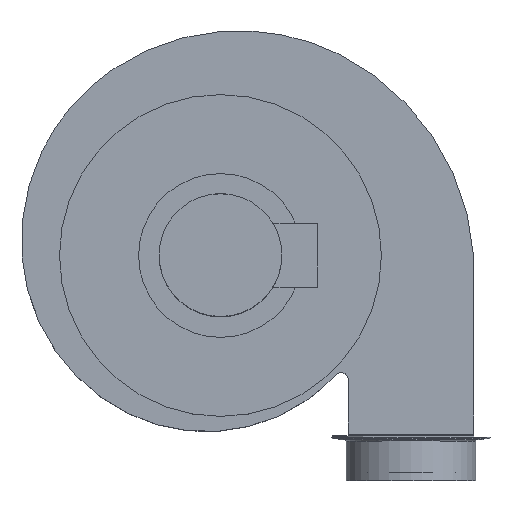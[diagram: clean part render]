
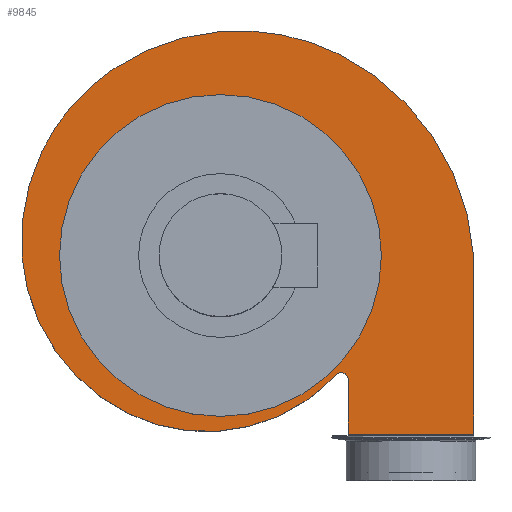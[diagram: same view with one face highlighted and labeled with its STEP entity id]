
A CAD part, top view. The second image highlights one B-rep face of the part: STEP entity #9845.
In plain terms, the highlighted planar face has unit normal (0, 0, 1).
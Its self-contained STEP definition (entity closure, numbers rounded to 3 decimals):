
#1015=LINE('',#12393,#1695);
#1043=LINE('',#12496,#1723);
#1055=LINE('',#12519,#1735);
#1695=VECTOR('',#10886,10.);
#1723=VECTOR('',#10986,10.);
#1735=VECTOR('',#11008,10.);
#2516=PLANE('',#10468);
#2644=FACE_BOUND('',#3314,.T.);
#2736=FACE_OUTER_BOUND('',#3313,.T.);
#3313=EDGE_LOOP('',(#6803,#6804,#6805,#6806,#6807,#6808,#6809,#6810,#6811,
#6812,#6813,#6814,#6815));
#3314=EDGE_LOOP('',(#6816));
#3940=CIRCLE('',#10431,298.753);
#3942=CIRCLE('',#10434,274.958);
#3944=CIRCLE('',#10437,275.108);
#3946=CIRCLE('',#10440,253.289);
#3948=CIRCLE('',#10443,253.209);
#3950=CIRCLE('',#10446,233.749);
#3952=CIRCLE('',#10449,233.75);
#3954=CIRCLE('',#10452,215.217);
#3956=CIRCLE('',#10455,213.668);
#3958=CIRCLE('',#10458,8.85);
#3962=CIRCLE('',#10469,196.5);
#4156=VERTEX_POINT('',#12390);
#4157=VERTEX_POINT('',#12392);
#4169=VERTEX_POINT('',#12418);
#4170=VERTEX_POINT('',#12419);
#4173=VERTEX_POINT('',#12427);
#4175=VERTEX_POINT('',#12433);
#4177=VERTEX_POINT('',#12439);
#4179=VERTEX_POINT('',#12445);
#4181=VERTEX_POINT('',#12451);
#4183=VERTEX_POINT('',#12457);
#4185=VERTEX_POINT('',#12463);
#4187=VERTEX_POINT('',#12469);
#4196=VERTEX_POINT('',#12494);
#4203=VERTEX_POINT('',#12520);
#5179=EDGE_CURVE('',#4156,#4157,#1015,.T.);
#5192=EDGE_CURVE('',#4169,#4170,#3940,.T.);
#5196=EDGE_CURVE('',#4173,#4169,#3942,.T.);
#5199=EDGE_CURVE('',#4175,#4173,#3944,.T.);
#5202=EDGE_CURVE('',#4177,#4175,#3946,.T.);
#5205=EDGE_CURVE('',#4179,#4177,#3948,.T.);
#5208=EDGE_CURVE('',#4181,#4179,#3950,.T.);
#5211=EDGE_CURVE('',#4183,#4181,#3952,.T.);
#5214=EDGE_CURVE('',#4185,#4183,#3954,.T.);
#5217=EDGE_CURVE('',#4187,#4185,#3956,.T.);
#5220=EDGE_CURVE('',#4157,#4187,#3958,.T.);
#5231=EDGE_CURVE('',#4156,#4196,#1043,.T.);
#5243=EDGE_CURVE('',#4170,#4196,#1055,.T.);
#5244=EDGE_CURVE('',#4203,#4203,#3962,.T.);
#6803=ORIENTED_EDGE('',*,*,#5231,.T.);
#6804=ORIENTED_EDGE('',*,*,#5243,.F.);
#6805=ORIENTED_EDGE('',*,*,#5192,.F.);
#6806=ORIENTED_EDGE('',*,*,#5196,.F.);
#6807=ORIENTED_EDGE('',*,*,#5199,.F.);
#6808=ORIENTED_EDGE('',*,*,#5202,.F.);
#6809=ORIENTED_EDGE('',*,*,#5205,.F.);
#6810=ORIENTED_EDGE('',*,*,#5208,.F.);
#6811=ORIENTED_EDGE('',*,*,#5211,.F.);
#6812=ORIENTED_EDGE('',*,*,#5214,.F.);
#6813=ORIENTED_EDGE('',*,*,#5217,.F.);
#6814=ORIENTED_EDGE('',*,*,#5220,.F.);
#6815=ORIENTED_EDGE('',*,*,#5179,.F.);
#6816=ORIENTED_EDGE('',*,*,#5244,.T.);
#9845=ADVANCED_FACE('',(#2736,#2644),#2516,.T.);
#10431=AXIS2_PLACEMENT_3D('',#12420,#10903,#10904);
#10434=AXIS2_PLACEMENT_3D('',#12428,#10911,#10912);
#10437=AXIS2_PLACEMENT_3D('',#12434,#10918,#10919);
#10440=AXIS2_PLACEMENT_3D('',#12440,#10925,#10926);
#10443=AXIS2_PLACEMENT_3D('',#12446,#10932,#10933);
#10446=AXIS2_PLACEMENT_3D('',#12452,#10939,#10940);
#10449=AXIS2_PLACEMENT_3D('',#12458,#10946,#10947);
#10452=AXIS2_PLACEMENT_3D('',#12464,#10953,#10954);
#10455=AXIS2_PLACEMENT_3D('',#12470,#10960,#10961);
#10458=AXIS2_PLACEMENT_3D('',#12475,#10967,#10968);
#10468=AXIS2_PLACEMENT_3D('',#12518,#11006,#11007);
#10469=AXIS2_PLACEMENT_3D('',#12521,#11009,#11010);
#10886=DIRECTION('',(0.,1.,0.));
#10903=DIRECTION('center_axis',(0.,0.,-1.));
#10904=DIRECTION('ref_axis',(-0.997,-0.072,0.));
#10911=DIRECTION('center_axis',(0.,0.,-1.));
#10912=DIRECTION('ref_axis',(-0.44,-0.898,0.));
#10918=DIRECTION('center_axis',(0.,0.,-1.));
#10919=DIRECTION('ref_axis',(0.081,-0.997,0.));
#10925=DIRECTION('center_axis',(0.,0.,-1.));
#10926=DIRECTION('ref_axis',(0.559,-0.829,0.));
#10932=DIRECTION('center_axis',(0.,0.,-1.));
#10933=DIRECTION('ref_axis',(0.901,-0.434,0.));
#10939=DIRECTION('center_axis',(0.,0.,-1.));
#10940=DIRECTION('ref_axis',(0.997,0.08,0.));
#10946=DIRECTION('center_axis',(0.,0.,-1.));
#10947=DIRECTION('ref_axis',(0.825,0.566,0.));
#10953=DIRECTION('center_axis',(0.,0.,-1.));
#10954=DIRECTION('ref_axis',(0.439,0.898,0.));
#10960=DIRECTION('center_axis',(0.,0.,-1.));
#10961=DIRECTION('ref_axis',(-0.56,0.828,0.));
#10967=DIRECTION('center_axis',(0.,0.,1.));
#10968=DIRECTION('ref_axis',(1.,0.,0.));
#10986=DIRECTION('',(1.,0.,0.));
#11006=DIRECTION('center_axis',(0.,0.,1.));
#11007=DIRECTION('ref_axis',(1.,0.,0.));
#11008=DIRECTION('',(0.,-1.,0.));
#11009=DIRECTION('center_axis',(0.,0.,-1.));
#11010=DIRECTION('ref_axis',(0.,1.,0.));
#12390=CARTESIAN_POINT('',(1900.421,1144.921,2.));
#12392=CARTESIAN_POINT('',(1900.421,1211.171,2.));
#12393=CARTESIAN_POINT('',(1900.421,1142.921,2.));
#12418=CARTESIAN_POINT('',(1887.91,1609.279,2.));
#12419=CARTESIAN_POINT('',(2053.421,1362.921,2.));
#12420=CARTESIAN_POINT('Origin',(1755.437,1341.503,2.));
#12427=CARTESIAN_POINT('',(1744.726,1636.436,2.));
#12428=CARTESIAN_POINT('Origin',(1766.913,1362.375,2.));
#12433=CARTESIAN_POINT('',(1613.09,1590.315,2.));
#12434=CARTESIAN_POINT('Origin',(1766.905,1362.224,2.));
#12439=CARTESIAN_POINT('',(1526.41,1490.169,2.));
#12440=CARTESIAN_POINT('Origin',(1754.602,1380.244,2.));
#12445=CARTESIAN_POINT('',(1502.037,1361.117,2.));
#12446=CARTESIAN_POINT('Origin',(1754.521,1380.26,2.));
#12451=CARTESIAN_POINT('',(1542.262,1247.516,2.));
#12452=CARTESIAN_POINT('Origin',(1735.046,1379.702,2.));
#12457=CARTESIAN_POINT('',(1632.399,1169.696,2.));
#12458=CARTESIAN_POINT('Origin',(1735.046,1379.702,2.));
#12463=CARTESIAN_POINT('',(1847.524,1184.81,2.));
#12464=CARTESIAN_POINT('Origin',(1726.908,1363.052,2.));
#12469=CARTESIAN_POINT('',(1884.577,1216.593,2.));
#12470=CARTESIAN_POINT('Origin',(1727.848,1361.818,2.));
#12475=CARTESIAN_POINT('Origin',(1891.571,1211.171,2.));
#12494=CARTESIAN_POINT('',(2053.421,1144.921,2.));
#12496=CARTESIAN_POINT('',(1925.529,1144.921,2.));
#12518=CARTESIAN_POINT('Origin',(1797.637,1360.778,2.));
#12519=CARTESIAN_POINT('',(2053.421,1362.921,2.));
#12520=CARTESIAN_POINT('',(1744.371,1166.421,2.));
#12521=CARTESIAN_POINT('Origin',(1744.371,1362.921,2.));
